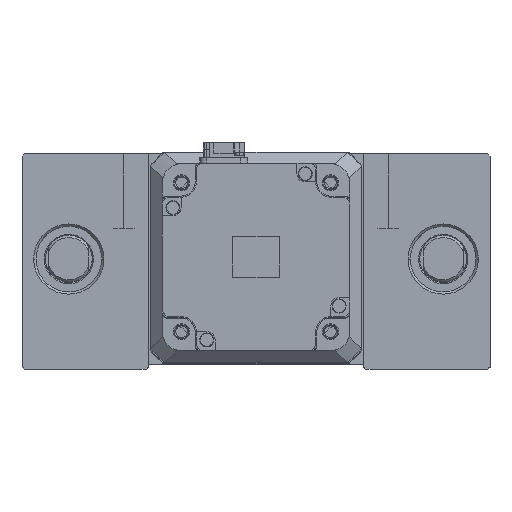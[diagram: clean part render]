
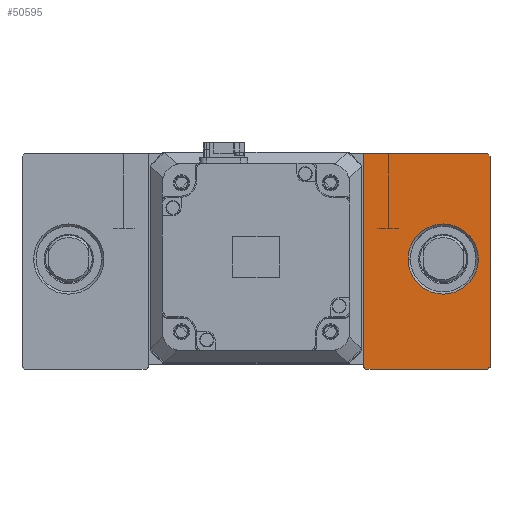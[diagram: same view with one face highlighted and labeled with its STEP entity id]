
A CAD part, top view. The second image highlights one B-rep face of the part: STEP entity #50595.
In plain terms, the highlighted planar face has unit normal (0, 0, 1).
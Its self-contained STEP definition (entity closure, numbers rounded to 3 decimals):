
#208 = EDGE_CURVE ( 'NONE', #1791, #30987, #2034, .T. ) ;
#689 = DIRECTION ( 'NONE',  ( 1., 0., 0. ) ) ;
#851 = FACE_OUTER_BOUND ( 'NONE', #52301, .T. ) ;
#995 = AXIS2_PLACEMENT_3D ( 'NONE', #40257, #19736, #49590 ) ;
#1592 = ORIENTED_EDGE ( 'NONE', *, *, #41881, .T. ) ;
#1659 = ORIENTED_EDGE ( 'NONE', *, *, #31212, .T. ) ;
#1791 = VERTEX_POINT ( 'NONE', #50684 ) ;
#2034 = LINE ( 'NONE', #11036, #48767 ) ;
#2135 = ORIENTED_EDGE ( 'NONE', *, *, #18890, .T. ) ;
#2564 = VERTEX_POINT ( 'NONE', #12002 ) ;
#4972 = AXIS2_PLACEMENT_3D ( 'NONE', #12461, #42332, #16773 ) ;
#4983 = ORIENTED_EDGE ( 'NONE', *, *, #38387, .T. ) ;
#5040 = EDGE_CURVE ( 'NONE', #33656, #2564, #6238, .T. ) ;
#5337 = CARTESIAN_POINT ( 'NONE',  ( 99., 45., 35. ) ) ;
#5363 = EDGE_LOOP ( 'NONE', ( #1592, #20105 ) ) ;
#6238 = CIRCLE ( 'NONE', #4972, 15. ) ;
#6462 = VECTOR ( 'NONE', #30772, 1000. ) ;
#6819 = VERTEX_POINT ( 'NONE', #54145 ) ;
#7939 = ORIENTED_EDGE ( 'NONE', *, *, #208, .T. ) ;
#8776 = CARTESIAN_POINT ( 'NONE',  ( 46., 45., 35. ) ) ;
#9162 = DIRECTION ( 'NONE',  ( 0.707, 0.707, 0. ) ) ;
#9253 = DIRECTION ( 'NONE',  ( -1., 0., 0. ) ) ;
#10364 = LINE ( 'NONE', #17293, #54437 ) ;
#11036 = CARTESIAN_POINT ( 'NONE',  ( 46., -47., 35. ) ) ;
#12002 = CARTESIAN_POINT ( 'NONE',  ( 95., 0., 35. ) ) ;
#12461 = CARTESIAN_POINT ( 'NONE',  ( 80., 0., 35. ) ) ;
#12492 = CIRCLE ( 'NONE', #23005, 15. ) ;
#12681 = DIRECTION ( 'NONE',  ( 0., -1., 0. ) ) ;
#13738 = LINE ( 'NONE', #30461, #46512 ) ;
#16773 = DIRECTION ( 'NONE',  ( 1., 0., 0. ) ) ;
#17293 = CARTESIAN_POINT ( 'NONE',  ( 0., 0., 35. ) ) ;
#18343 = VERTEX_POINT ( 'NONE', #5337 ) ;
#18890 = EDGE_CURVE ( 'NONE', #30987, #55031, #13738, .T. ) ;
#19736 = DIRECTION ( 'NONE',  ( 0., 0., 1. ) ) ;
#20062 = VECTOR ( 'NONE', #9253, 1000. ) ;
#20105 = ORIENTED_EDGE ( 'NONE', *, *, #5040, .T. ) ;
#21322 = LINE ( 'NONE', #8776, #32699 ) ;
#23005 = AXIS2_PLACEMENT_3D ( 'NONE', #51830, #26231, #689 ) ;
#24912 = EDGE_CURVE ( 'NONE', #33126, #18343, #30492, .T. ) ;
#25653 = CARTESIAN_POINT ( 'NONE',  ( 100., 44., 35. ) ) ;
#26231 = DIRECTION ( 'NONE',  ( 0., 0., -1. ) ) ;
#26477 = CARTESIAN_POINT ( 'NONE',  ( 100., -46., 35. ) ) ;
#28777 = LINE ( 'NONE', #34820, #20062 ) ;
#29477 = EDGE_CURVE ( 'NONE', #54803, #6819, #21322, .T. ) ;
#29733 = CARTESIAN_POINT ( 'NONE',  ( 65., 0., 35. ) ) ;
#30461 = CARTESIAN_POINT ( 'NONE',  ( 73., -73., 35. ) ) ;
#30492 = LINE ( 'NONE', #52048, #6462 ) ;
#30772 = DIRECTION ( 'NONE',  ( -0.707, 0.707, 0. ) ) ;
#30987 = VERTEX_POINT ( 'NONE', #32078 ) ;
#31212 = EDGE_CURVE ( 'NONE', #6819, #1791, #10364, .T. ) ;
#32078 = CARTESIAN_POINT ( 'NONE',  ( 99., -47., 35. ) ) ;
#32112 = ORIENTED_EDGE ( 'NONE', *, *, #49372, .T. ) ;
#32699 = VECTOR ( 'NONE', #12681, 1000. ) ;
#33126 = VERTEX_POINT ( 'NONE', #25653 ) ;
#33656 = VERTEX_POINT ( 'NONE', #29733 ) ;
#34820 = CARTESIAN_POINT ( 'NONE',  ( 46., 45., 35. ) ) ;
#36003 = PLANE ( 'NONE',  #995 ) ;
#37407 = ORIENTED_EDGE ( 'NONE', *, *, #29477, .T. ) ;
#38387 = EDGE_CURVE ( 'NONE', #55031, #33126, #50993, .T. ) ;
#38564 = DIRECTION ( 'NONE',  ( 0.707, -0.707, 0. ) ) ;
#39623 = VECTOR ( 'NONE', #41506, 1000. ) ;
#40257 = CARTESIAN_POINT ( 'NONE',  ( 0., 0., 35. ) ) ;
#41338 = CARTESIAN_POINT ( 'NONE',  ( 100., 45., 35. ) ) ;
#41506 = DIRECTION ( 'NONE',  ( 0., 1., 0. ) ) ;
#41881 = EDGE_CURVE ( 'NONE', #2564, #33656, #12492, .T. ) ;
#42332 = DIRECTION ( 'NONE',  ( 0., 0., -1. ) ) ;
#43623 = ORIENTED_EDGE ( 'NONE', *, *, #24912, .T. ) ;
#44937 = FACE_BOUND ( 'NONE', #5363, .T. ) ;
#46126 = CARTESIAN_POINT ( 'NONE',  ( 46., 45., 35. ) ) ;
#46512 = VECTOR ( 'NONE', #9162, 1000. ) ;
#48767 = VECTOR ( 'NONE', #53593, 1000. ) ;
#49372 = EDGE_CURVE ( 'NONE', #18343, #54803, #28777, .T. ) ;
#49590 = DIRECTION ( 'NONE',  ( 1., 0., 0. ) ) ;
#50595 = ADVANCED_FACE ( 'NONE', ( #44937, #851 ), #36003, .T. ) ;
#50684 = CARTESIAN_POINT ( 'NONE',  ( 47., -47., 35. ) ) ;
#50993 = LINE ( 'NONE', #41338, #39623 ) ;
#51830 = CARTESIAN_POINT ( 'NONE',  ( 80., 0., 35. ) ) ;
#52048 = CARTESIAN_POINT ( 'NONE',  ( 72., 72., 35. ) ) ;
#52301 = EDGE_LOOP ( 'NONE', ( #37407, #1659, #7939, #2135, #4983, #43623, #32112 ) ) ;
#53593 = DIRECTION ( 'NONE',  ( 1., 0., 0. ) ) ;
#54145 = CARTESIAN_POINT ( 'NONE',  ( 46., -46., 35. ) ) ;
#54437 = VECTOR ( 'NONE', #38564, 1000. ) ;
#54803 = VERTEX_POINT ( 'NONE', #46126 ) ;
#55031 = VERTEX_POINT ( 'NONE', #26477 ) ;
